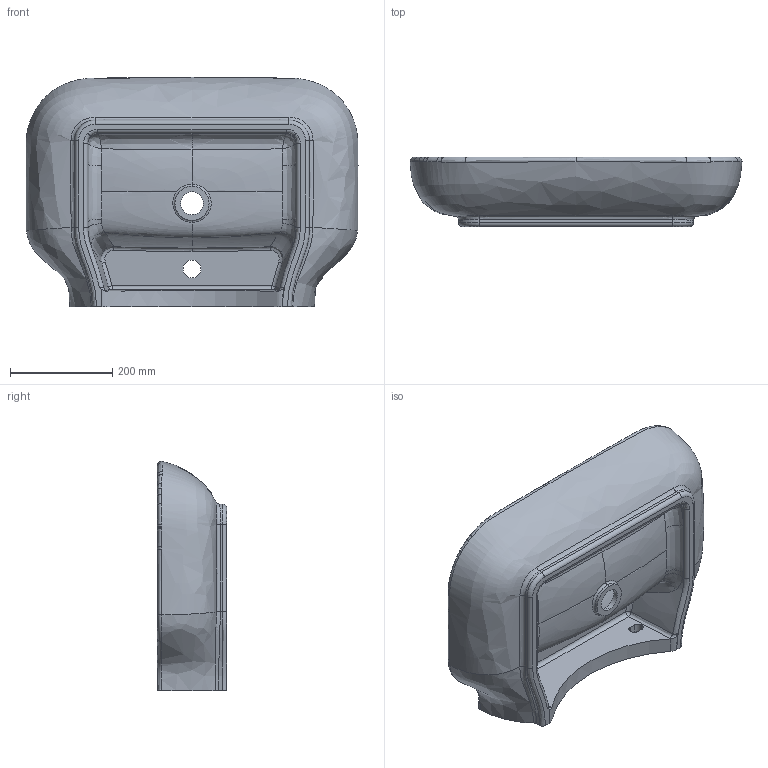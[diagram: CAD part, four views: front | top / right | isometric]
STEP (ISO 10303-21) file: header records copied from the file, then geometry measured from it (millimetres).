
FILE_DESCRIPTION (( 'STEP AP203' ), '1' );
FILE_NAME ('FE065.STEP', '2022-04-05T07:17:54', ( '' ), ( '' ), 'SwSTEP 2.0', 'SolidWorks 2021', '' );
FILE_SCHEMA (( 'CONFIG_CONTROL_DESIGN' ));
Length unit declared in the file: millimetre
Products named in the file (1): FE065
Bounding box: 650.54 x 136 x 449.24 mm (x, y, z)
Volume: 11373904.2 mm3; surface area: 885909.5 mm2
Topology: 1 solids, 2 shells, 163 faces, 442 edges, 279 vertices
Faces by surface type: bspline 104, cylinder 28, plane 23, torus 4, sphere 2, cone 2
Entity records: 80270 total; most frequent: CARTESIAN_POINT 76952, ORIENTED_EDGE 876, EDGE_CURVE 438, DIRECTION 394, VERTEX_POINT 279, B_SPLINE_CURVE_WITH_KNOTS 244, EDGE_LOOP 171, FACE_OUTER_BOUND 163
